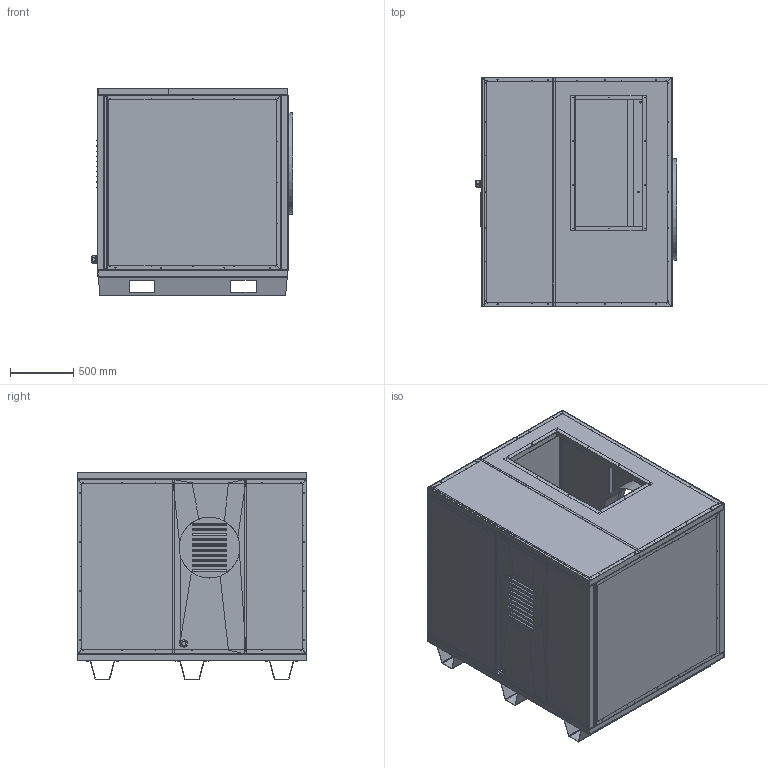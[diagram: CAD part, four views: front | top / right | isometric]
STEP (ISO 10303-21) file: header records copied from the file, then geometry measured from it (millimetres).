
FILE_DESCRIPTION(/* description */ (''),/* implementation_level */ '2;1');
FILE_NAME(/* name */ 'Component50 ok.step',/* time_stamp */ '2024-09-27T11:46:31+02:00',/* author */ (''),/* organization */ (''),/* preprocessor_version */ 'ST-DEVELOPER v20',/* originating_system */ 'Autodesk Translation Framework v13.20.0.188',/* authorisation */ '');
FILE_SCHEMA (('AUTOMOTIVE_DESIGN { 1 0 10303 214 3 1 1 }'));
Products named in the file (1): FusionComponent
Bounding box: 1586.33 x 1809 x 1635.8 mm (x, y, z)
Volume: 413400951.4 mm3; surface area: 40211627 mm2
Topology: 1 solids, 27 shells, 2131 faces, 5344 edges, 3378 vertices
Faces by surface type: plane 1469, cylinder 639, bspline 16, cone 6, torus 1
Full cylindrical faces by diameter (mm): 5 x272, 6.779 x24, 9 x92, 12.5 x6, 32.5 x1, 40 x1, 47 x3, 48 x1, 53 x1, 797 x1, 797.4 x1, 799 x2, 801 x1, 802 x1, 829 x1
Entity records: 65191 total; most frequent: CARTESIAN_POINT 12268, DIRECTION 10821, ORIENTED_EDGE 10688, EDGE_CURVE 5344, LINE 3999, VECTOR 3999, AXIS2_PLACEMENT_3D 3411, VERTEX_POINT 3378
